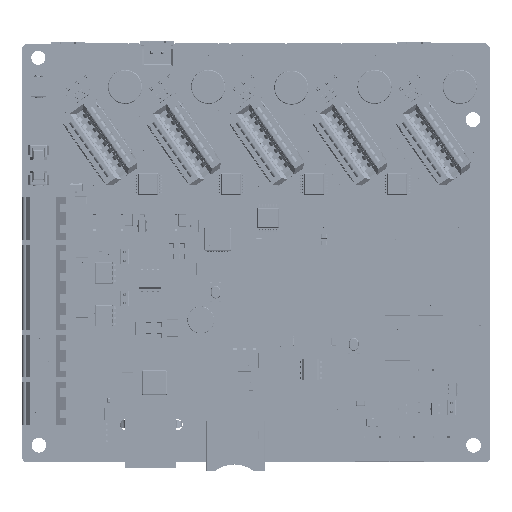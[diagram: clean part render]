
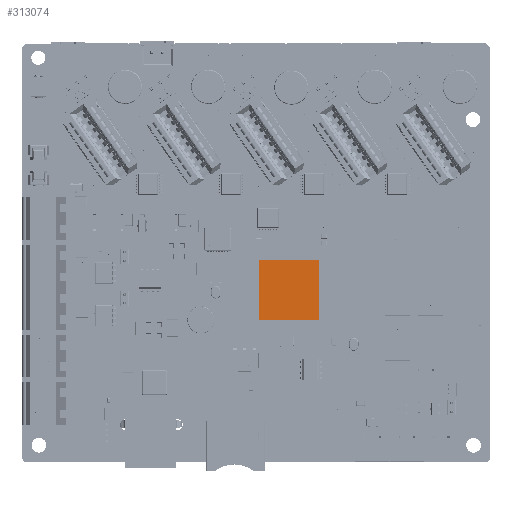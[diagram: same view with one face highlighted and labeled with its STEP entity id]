
A CAD part, top view. The second image highlights one B-rep face of the part: STEP entity #313074.
In plain terms, the highlighted planar face has unit normal (0, 0, 1).
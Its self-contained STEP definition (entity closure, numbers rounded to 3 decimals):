
#312945 = VERTEX_POINT('',#312946);
#312946 = CARTESIAN_POINT('',(7.,-7.,1.15));
#312952 = EDGE_CURVE('',#312945,#312953,#312955,.T.);
#312953 = VERTEX_POINT('',#312954);
#312954 = CARTESIAN_POINT('',(-7.,-7.,1.15));
#312955 = LINE('',#312956,#312957);
#312956 = CARTESIAN_POINT('',(7.,-7.,1.15));
#312957 = VECTOR('',#312958,1.);
#312958 = DIRECTION('',(-1.,0.,0.));
#312983 = EDGE_CURVE('',#312953,#312984,#312986,.T.);
#312984 = VERTEX_POINT('',#312985);
#312985 = CARTESIAN_POINT('',(-7.,7.,1.15));
#312986 = LINE('',#312987,#312988);
#312987 = CARTESIAN_POINT('',(-7.,-7.,1.15));
#312988 = VECTOR('',#312989,1.);
#312989 = DIRECTION('',(0.,1.,0.));
#313014 = EDGE_CURVE('',#312984,#313015,#313017,.T.);
#313015 = VERTEX_POINT('',#313016);
#313016 = CARTESIAN_POINT('',(7.,7.,1.15));
#313017 = LINE('',#313018,#313019);
#313018 = CARTESIAN_POINT('',(-7.,7.,1.15));
#313019 = VECTOR('',#313020,1.);
#313020 = DIRECTION('',(1.,0.,0.));
#313045 = EDGE_CURVE('',#313015,#312945,#313046,.T.);
#313046 = LINE('',#313047,#313048);
#313047 = CARTESIAN_POINT('',(7.,7.,1.15));
#313048 = VECTOR('',#313049,1.);
#313049 = DIRECTION('',(0.,-1.,0.));
#313074 = ADVANCED_FACE('',(#313075),#313081,.T.);
#313075 = FACE_BOUND('',#313076,.F.);
#313076 = EDGE_LOOP('',(#313077,#313078,#313079,#313080));
#313077 = ORIENTED_EDGE('',*,*,#312952,.T.);
#313078 = ORIENTED_EDGE('',*,*,#312983,.T.);
#313079 = ORIENTED_EDGE('',*,*,#313014,.T.);
#313080 = ORIENTED_EDGE('',*,*,#313045,.T.);
#313081 = PLANE('',#313082);
#313082 = AXIS2_PLACEMENT_3D('',#313083,#313084,#313085);
#313083 = CARTESIAN_POINT('',(7.,-7.,1.15));
#313084 = DIRECTION('',(0.,0.,1.));
#313085 = DIRECTION('',(1.,0.,0.));
